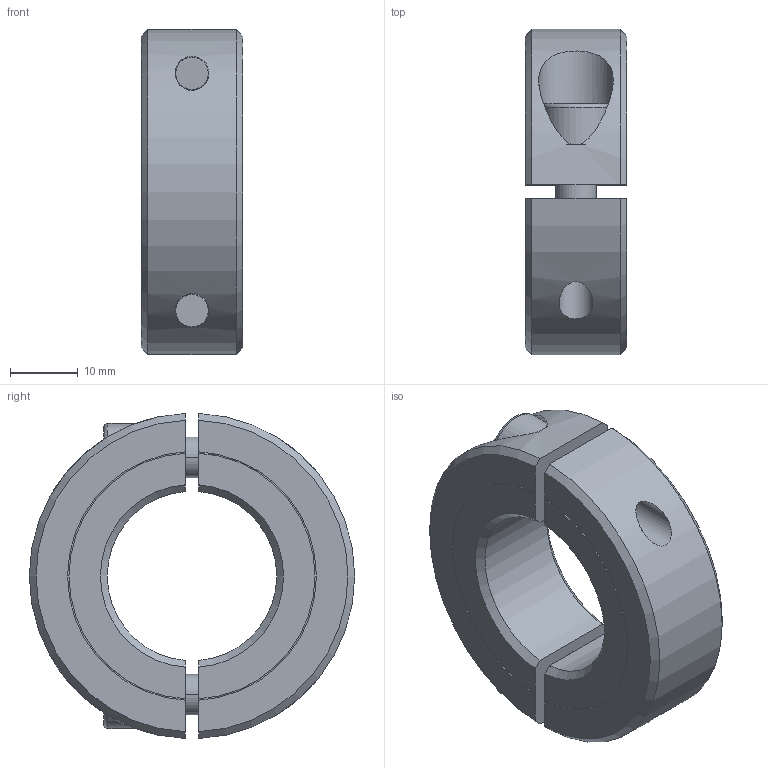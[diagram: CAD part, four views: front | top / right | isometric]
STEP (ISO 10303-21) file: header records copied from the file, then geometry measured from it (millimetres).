
FILE_DESCRIPTION((''),'2;1');
FILE_NAME('131-000-0025_ASM','2013-12-20T',('Brieden'),('brieden'),'PRO/ENGINEER BY PARAMETRIC TECHNOLOGY CORPORATION, 2005030','PRO/ENGINEER BY PARAMETRIC TECHNOLOGY CORPORATION, 2005030','');
FILE_SCHEMA(('AUTOMOTIVE_DESIGN_CC2 { 1 2 10303 214 -1 1 5 2 }'));
Length unit declared in the file: millimetre
Products named in the file (4): 131-000-0025-DB_PRT; 131-000-0025-TH_PRT; D912-M6X16_PRT; 131-000-0025_ASM
Assembly tree (4 placements, depth 2):
  131-000-0025_ASM
    131-000-0025-DB_PRT
    131-000-0025-TH_PRT
    D912-M6X16_PRT  x2
Bounding box: 15 x 48 x 47.96 mm (x, y, z)
Volume: 17888 mm3; surface area: 8603.9 mm2
Topology: 4 solids, 4 shells, 94 faces, 214 edges, 136 vertices
Faces by surface type: plane 34, cylinder 26, cone 20, torus 14
Entity records: 2330 total; most frequent: CARTESIAN_POINT 629, DIRECTION 348, ORIENTED_EDGE 312, EDGE_CURVE 156, AXIS2_PLACEMENT_3D 143, VERTEX_POINT 100, EDGE_LOOP 80, CIRCLE 68
